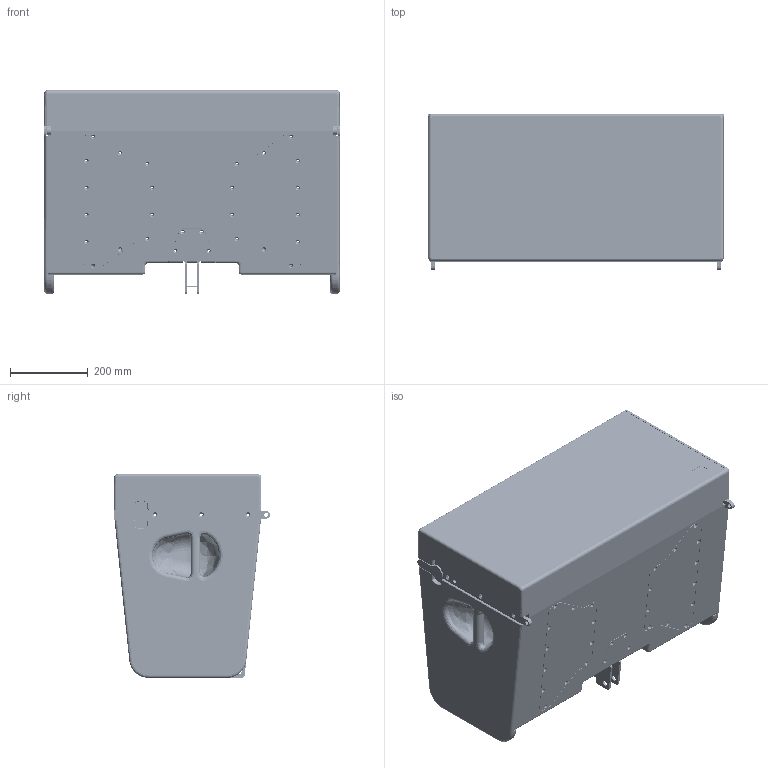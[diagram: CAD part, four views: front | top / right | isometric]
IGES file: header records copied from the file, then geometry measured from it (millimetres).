
Start section: SolidWorks IGES file using analytic representation for surfaces
Global section: file name: C:\Documents and Settings\Administrator\Desktop\Dateien-für-Internet\SEEBURG_Galeo-T.IGS; native system: SolidWorks 2009; preprocessor: SolidWorks 2009; author: Administrator; date: 160225.103118; units: millimetre
Bounding box: 760 x 402 x 525 mm (x, y, z)
Surface area: 4309119.9 mm2 (no closed solid volume)
Topology: 0 solids, 0 shells, 2273 faces, 33672 edges, 33668 vertices
Faces by surface type: revolution 1201, bspline 1072
